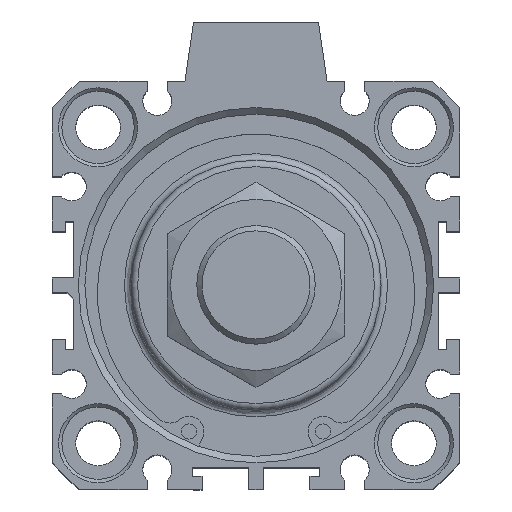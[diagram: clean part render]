
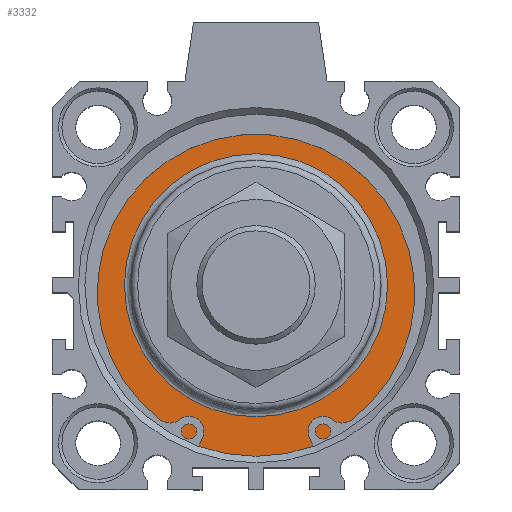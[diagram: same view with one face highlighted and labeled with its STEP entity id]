
A CAD part, top view. The second image highlights one B-rep face of the part: STEP entity #3332.
In plain terms, the highlighted planar face has unit normal (0, 0, 1).
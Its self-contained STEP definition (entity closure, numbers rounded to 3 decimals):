
#3281=CARTESIAN_POINT('',(-0.12,20.837,64.3));
#3282=VERTEX_POINT('',#3281);
#3283=CARTESIAN_POINT('',(-0.12,0.837,64.3));
#3284=DIRECTION('',(0.0,0.0,1.0));
#3285=DIRECTION('',(0.0,-1.0,0.0));
#3286=AXIS2_PLACEMENT_3D('',#3283,#3284,#3285);
#3287=CIRCLE('',#3286,20.0);
#3288=EDGE_CURVE('',#3282,#3282,#3287,.T.);
#3313=CARTESIAN_POINT('',(-0.12,23.337,64.3));
#3314=DIRECTION('',(0.0,0.0,1.0));
#3315=DIRECTION('',(1.0,0.0,0.0));
#3316=AXIS2_PLACEMENT_3D('',#3313,#3314,#3315);
#3317=PLANE('',#3316);
#3318=CARTESIAN_POINT('',(-0.12,26.837,64.3));
#3319=VERTEX_POINT('',#3318);
#3320=CARTESIAN_POINT('',(-0.12,0.837,64.3));
#3321=DIRECTION('',(0.0,0.0,-1.0));
#3322=DIRECTION('',(0.0,1.0,0.0));
#3323=AXIS2_PLACEMENT_3D('',#3320,#3321,#3322);
#3324=CIRCLE('',#3323,26.);
#3325=EDGE_CURVE('',#3319,#3319,#3324,.T.);
#3326=ORIENTED_EDGE('',*,*,#3325,.F.);
#3327=EDGE_LOOP('',(#3326));
#3328=FACE_OUTER_BOUND('',#3327,.T.);
#3329=ORIENTED_EDGE('',*,*,#3288,.F.);
#3330=EDGE_LOOP('',(#3329));
#3331=FACE_BOUND('',#3330,.T.);
#3332=ADVANCED_FACE('',(#3328,#3331),#3317,.T.);
